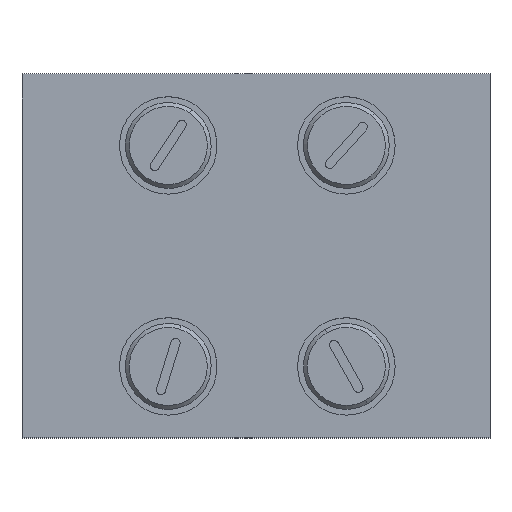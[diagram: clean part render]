
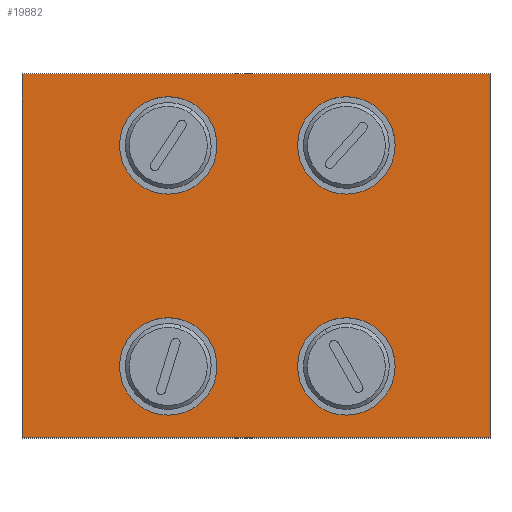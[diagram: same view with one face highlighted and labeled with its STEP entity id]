
A CAD part, top view. The second image highlights one B-rep face of the part: STEP entity #19882.
In plain terms, the highlighted planar face has unit normal (0, 0, 1).
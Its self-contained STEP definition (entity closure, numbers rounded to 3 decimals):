
#309 = EDGE_CURVE ( 'NONE', #3137, #9186, #21425, .T. ) ;
#837 = CARTESIAN_POINT ( 'NONE',  ( 2.73, 8.5, 10.8 ) ) ;
#1066 = EDGE_LOOP ( 'NONE', ( #17262, #32381, #6038, #15876 ) ) ;
#1436 = ORIENTED_EDGE ( 'NONE', *, *, #26308, .F. ) ;
#1903 = AXIS2_PLACEMENT_3D ( 'NONE', #27282, #40916, #10387 ) ;
#1926 = VERTEX_POINT ( 'NONE', #2886 ) ;
#1983 = DIRECTION ( 'NONE',  ( 1., 0., 0. ) ) ;
#2219 = AXIS2_PLACEMENT_3D ( 'NONE', #31681, #13877, #37498 ) ;
#2693 = FACE_BOUND ( 'NONE', #35434, .T. ) ;
#2886 = CARTESIAN_POINT ( 'NONE',  ( 17.53, -14., 10.8 ) ) ;
#2898 = FACE_BOUND ( 'NONE', #5107, .T. ) ;
#3033 = EDGE_CURVE ( 'NONE', #34545, #31304, #9737, .T. ) ;
#3137 = VERTEX_POINT ( 'NONE', #12749 ) ;
#3350 = AXIS2_PLACEMENT_3D ( 'NONE', #39809, #9269, #38438 ) ;
#4177 = VERTEX_POINT ( 'NONE', #10632 ) ;
#5005 = DIRECTION ( 'NONE',  ( 1., 0., 0. ) ) ;
#5107 = EDGE_LOOP ( 'NONE', ( #1436, #9361 ) ) ;
#5462 = ORIENTED_EDGE ( 'NONE', *, *, #309, .F. ) ;
#5892 = VERTEX_POINT ( 'NONE', #38696 ) ;
#5990 = DIRECTION ( 'NONE',  ( 1., 0., 0. ) ) ;
#6038 = ORIENTED_EDGE ( 'NONE', *, *, #31249, .T. ) ;
#6424 = DIRECTION ( 'NONE',  ( 0., 0., 1. ) ) ;
#6844 = EDGE_CURVE ( 'NONE', #20532, #33818, #35777, .T. ) ;
#6915 = FACE_BOUND ( 'NONE', #34150, .T. ) ;
#8737 = CARTESIAN_POINT ( 'NONE',  ( -18.47, 14., 10.8 ) ) ;
#9186 = VERTEX_POINT ( 'NONE', #40316 ) ;
#9223 = DIRECTION ( 'NONE',  ( 1., 0., 0. ) ) ;
#9269 = DIRECTION ( 'NONE',  ( 0., 0., 1. ) ) ;
#9361 = ORIENTED_EDGE ( 'NONE', *, *, #6844, .F. ) ;
#9737 = CIRCLE ( 'NONE', #1903, 3.75 ) ;
#9862 = CIRCLE ( 'NONE', #38346, 3.75 ) ;
#10045 = FACE_BOUND ( 'NONE', #25346, .T. ) ;
#10387 = DIRECTION ( 'NONE',  ( 1., 0., 0. ) ) ;
#10632 = CARTESIAN_POINT ( 'NONE',  ( 10.23, -8.5, 10.8 ) ) ;
#10842 = ORIENTED_EDGE ( 'NONE', *, *, #31440, .F. ) ;
#11044 = VECTOR ( 'NONE', #43241, 1000. ) ;
#12130 = CARTESIAN_POINT ( 'NONE',  ( 6.48, -8.5, 10.8 ) ) ;
#12749 = CARTESIAN_POINT ( 'NONE',  ( -3.47, -8.5, 10.8 ) ) ;
#13245 = DIRECTION ( 'NONE',  ( -1., 0., 0. ) ) ;
#13651 = VECTOR ( 'NONE', #20522, 1000. ) ;
#13877 = DIRECTION ( 'NONE',  ( 0., 0., 1. ) ) ;
#15519 = LINE ( 'NONE', #22194, #20259 ) ;
#15860 = AXIS2_PLACEMENT_3D ( 'NONE', #43094, #19032, #9223 ) ;
#15876 = ORIENTED_EDGE ( 'NONE', *, *, #22709, .T. ) ;
#17179 = DIRECTION ( 'NONE',  ( 0., 0., -1. ) ) ;
#17262 = ORIENTED_EDGE ( 'NONE', *, *, #24279, .T. ) ;
#17631 = CIRCLE ( 'NONE', #3350, 3.75 ) ;
#17847 = ORIENTED_EDGE ( 'NONE', *, *, #32891, .F. ) ;
#19032 = DIRECTION ( 'NONE',  ( 0., 0., 1. ) ) ;
#19324 = EDGE_CURVE ( 'NONE', #4177, #5892, #9862, .T. ) ;
#19362 = DIRECTION ( 'NONE',  ( 0., 0., 1. ) ) ;
#19692 = VERTEX_POINT ( 'NONE', #8737 ) ;
#19872 = AXIS2_PLACEMENT_3D ( 'NONE', #43701, #17179, #33881 ) ;
#19882 = ADVANCED_FACE ( 'NONE', ( #10045, #2898, #6915, #2693, #23640 ), #20524, .F. ) ;
#20259 = VECTOR ( 'NONE', #29088, 1000. ) ;
#20293 = CARTESIAN_POINT ( 'NONE',  ( 17.53, -14., 10.8 ) ) ;
#20522 = DIRECTION ( 'NONE',  ( 0., 1., 0. ) ) ;
#20524 = PLANE ( 'NONE',  #19872 ) ;
#20532 = VERTEX_POINT ( 'NONE', #837 ) ;
#20869 = VERTEX_POINT ( 'NONE', #23535 ) ;
#21425 = CIRCLE ( 'NONE', #2219, 3.75 ) ;
#22194 = CARTESIAN_POINT ( 'NONE',  ( -18.47, -14., 10.8 ) ) ;
#22709 = EDGE_CURVE ( 'NONE', #29103, #19692, #30154, .T. ) ;
#23535 = CARTESIAN_POINT ( 'NONE',  ( -18.47, -14., 10.8 ) ) ;
#23640 = FACE_OUTER_BOUND ( 'NONE', #1066, .T. ) ;
#23869 = LINE ( 'NONE', #20293, #13651 ) ;
#24092 = CARTESIAN_POINT ( 'NONE',  ( -10.97, 8.5, 10.8 ) ) ;
#24279 = EDGE_CURVE ( 'NONE', #19692, #20869, #28979, .T. ) ;
#25346 = EDGE_LOOP ( 'NONE', ( #5462, #10842 ) ) ;
#26308 = EDGE_CURVE ( 'NONE', #33818, #20532, #27948, .T. ) ;
#27282 = CARTESIAN_POINT ( 'NONE',  ( -7.22, 8.5, 10.8 ) ) ;
#27290 = CARTESIAN_POINT ( 'NONE',  ( 17.53, 14., 10.8 ) ) ;
#27948 = CIRCLE ( 'NONE', #29349, 3.75 ) ;
#28979 = LINE ( 'NONE', #32537, #11044 ) ;
#29088 = DIRECTION ( 'NONE',  ( 1., 0., 0. ) ) ;
#29103 = VERTEX_POINT ( 'NONE', #27290 ) ;
#29349 = AXIS2_PLACEMENT_3D ( 'NONE', #30011, #38295, #30662 ) ;
#29921 = ORIENTED_EDGE ( 'NONE', *, *, #19324, .F. ) ;
#30011 = CARTESIAN_POINT ( 'NONE',  ( 6.48, 8.5, 10.8 ) ) ;
#30154 = LINE ( 'NONE', #43768, #38675 ) ;
#30662 = DIRECTION ( 'NONE',  ( 1., 0., 0. ) ) ;
#31249 = EDGE_CURVE ( 'NONE', #1926, #29103, #23869, .T. ) ;
#31304 = VERTEX_POINT ( 'NONE', #24092 ) ;
#31440 = EDGE_CURVE ( 'NONE', #9186, #3137, #42104, .T. ) ;
#31681 = CARTESIAN_POINT ( 'NONE',  ( -7.22, -8.5, 10.8 ) ) ;
#32381 = ORIENTED_EDGE ( 'NONE', *, *, #37617, .T. ) ;
#32537 = CARTESIAN_POINT ( 'NONE',  ( -18.47, -14., 10.8 ) ) ;
#32891 = EDGE_CURVE ( 'NONE', #31304, #34545, #34301, .T. ) ;
#33818 = VERTEX_POINT ( 'NONE', #42603 ) ;
#33881 = DIRECTION ( 'NONE',  ( -1., 0., 0. ) ) ;
#34150 = EDGE_LOOP ( 'NONE', ( #29921, #38903 ) ) ;
#34301 = CIRCLE ( 'NONE', #35749, 3.75 ) ;
#34436 = ORIENTED_EDGE ( 'NONE', *, *, #3033, .F. ) ;
#34545 = VERTEX_POINT ( 'NONE', #36878 ) ;
#35434 = EDGE_LOOP ( 'NONE', ( #34436, #17847 ) ) ;
#35749 = AXIS2_PLACEMENT_3D ( 'NONE', #40108, #6424, #5990 ) ;
#35758 = DIRECTION ( 'NONE',  ( 0., 0., 1. ) ) ;
#35777 = CIRCLE ( 'NONE', #15860, 3.75 ) ;
#36878 = CARTESIAN_POINT ( 'NONE',  ( -3.47, 8.5, 10.8 ) ) ;
#37498 = DIRECTION ( 'NONE',  ( 1., 0., 0. ) ) ;
#37617 = EDGE_CURVE ( 'NONE', #20869, #1926, #15519, .T. ) ;
#38295 = DIRECTION ( 'NONE',  ( 0., 0., 1. ) ) ;
#38346 = AXIS2_PLACEMENT_3D ( 'NONE', #12130, #35758, #5005 ) ;
#38438 = DIRECTION ( 'NONE',  ( 1., 0., 0. ) ) ;
#38675 = VECTOR ( 'NONE', #13245, 1000. ) ;
#38696 = CARTESIAN_POINT ( 'NONE',  ( 2.73, -8.5, 10.8 ) ) ;
#38903 = ORIENTED_EDGE ( 'NONE', *, *, #39965, .F. ) ;
#39265 = AXIS2_PLACEMENT_3D ( 'NONE', #39435, #19362, #1983 ) ;
#39435 = CARTESIAN_POINT ( 'NONE',  ( -7.22, -8.5, 10.8 ) ) ;
#39809 = CARTESIAN_POINT ( 'NONE',  ( 6.48, -8.5, 10.8 ) ) ;
#39965 = EDGE_CURVE ( 'NONE', #5892, #4177, #17631, .T. ) ;
#40108 = CARTESIAN_POINT ( 'NONE',  ( -7.22, 8.5, 10.8 ) ) ;
#40316 = CARTESIAN_POINT ( 'NONE',  ( -10.97, -8.5, 10.8 ) ) ;
#40916 = DIRECTION ( 'NONE',  ( 0., 0., 1. ) ) ;
#42104 = CIRCLE ( 'NONE', #39265, 3.75 ) ;
#42603 = CARTESIAN_POINT ( 'NONE',  ( 10.23, 8.5, 10.8 ) ) ;
#43094 = CARTESIAN_POINT ( 'NONE',  ( 6.48, 8.5, 10.8 ) ) ;
#43241 = DIRECTION ( 'NONE',  ( 0., -1., 0. ) ) ;
#43701 = CARTESIAN_POINT ( 'NONE',  ( 0., 0., 10.8 ) ) ;
#43768 = CARTESIAN_POINT ( 'NONE',  ( -18.47, 14., 10.8 ) ) ;
